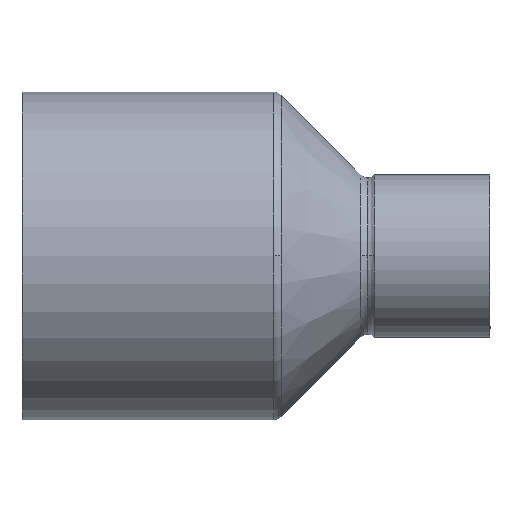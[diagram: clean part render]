
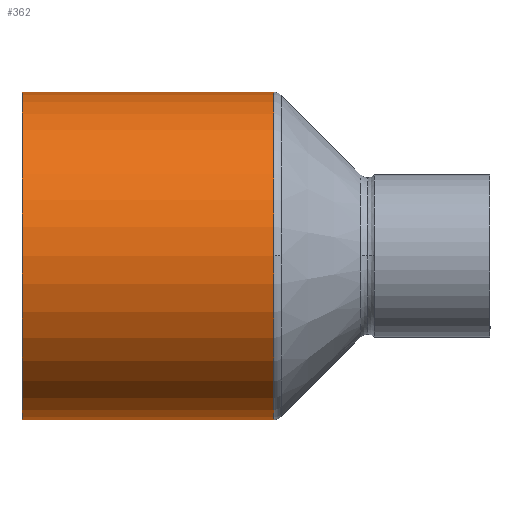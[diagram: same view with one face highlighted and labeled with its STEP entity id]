
A CAD part, top view. The second image highlights one B-rep face of the part: STEP entity #362.
In plain terms, the highlighted cylindrical face has radius 17.5 mm (diameter 35 mm), a partial arc.
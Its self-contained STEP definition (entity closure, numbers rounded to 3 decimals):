
#312=CARTESIAN_POINT('',(13.452,0.0,0.0));
#313=DIRECTION('',(1.0,0.0,0.0));
#314=DIRECTION('',(0.0,1.0,0.0));
#315=AXIS2_PLACEMENT_3D('',#312,#313,#314);
#316=CYLINDRICAL_SURFACE('',#315,17.5);
#317=CARTESIAN_POINT('',(0.,17.5,0.0));
#318=VERTEX_POINT('',#317);
#319=CARTESIAN_POINT('',(26.903,17.5,0.0));
#320=VERTEX_POINT('',#319);
#321=CARTESIAN_POINT('',(0.,17.5,0.0));
#322=DIRECTION('',(1.0,0.0,0.0));
#323=VECTOR('',#322,26.903);
#324=LINE('',#321,#323);
#325=EDGE_CURVE('',#318,#320,#324,.T.);
#326=ORIENTED_EDGE('',*,*,#325,.F.);
#327=CARTESIAN_POINT('',(0.,-17.5,0.));
#328=VERTEX_POINT('',#327);
#329=CARTESIAN_POINT('',(0.,0.0,0.0));
#330=DIRECTION('',(1.0,0.0,0.0));
#331=DIRECTION('',(0.0,1.0,0.0));
#332=AXIS2_PLACEMENT_3D('',#329,#330,#331);
#333=CIRCLE('',#332,17.5);
#334=EDGE_CURVE('',#318,#328,#333,.T.);
#335=ORIENTED_EDGE('',*,*,#334,.T.);
#336=CARTESIAN_POINT('',(26.903,-17.5,0.));
#337=VERTEX_POINT('',#336);
#338=CARTESIAN_POINT('',(26.903,-17.5,0.));
#339=DIRECTION('',(-1.0,0.0,0.0));
#340=VECTOR('',#339,26.903);
#341=LINE('',#338,#340);
#342=EDGE_CURVE('',#337,#328,#341,.T.);
#343=ORIENTED_EDGE('',*,*,#342,.F.);
#344=CARTESIAN_POINT('',(26.903,0.,17.5));
#345=VERTEX_POINT('',#344);
#346=CARTESIAN_POINT('',(26.903,0.0,0.0));
#347=DIRECTION('',(1.0,0.0,0.0));
#348=DIRECTION('',(0.0,1.0,0.0));
#349=AXIS2_PLACEMENT_3D('',#346,#347,#348);
#350=CIRCLE('',#349,17.5);
#351=EDGE_CURVE('',#345,#337,#350,.T.);
#352=ORIENTED_EDGE('',*,*,#351,.F.);
#353=CARTESIAN_POINT('',(26.903,0.0,0.0));
#354=DIRECTION('',(1.0,0.0,0.0));
#355=DIRECTION('',(0.0,1.0,0.0));
#356=AXIS2_PLACEMENT_3D('',#353,#354,#355);
#357=CIRCLE('',#356,17.5);
#358=EDGE_CURVE('',#320,#345,#357,.T.);
#359=ORIENTED_EDGE('',*,*,#358,.F.);
#360=EDGE_LOOP('',(#326,#335,#343,#352,#359));
#361=FACE_OUTER_BOUND('',#360,.T.);
#362=ADVANCED_FACE('',(#361),#316,.T.);
